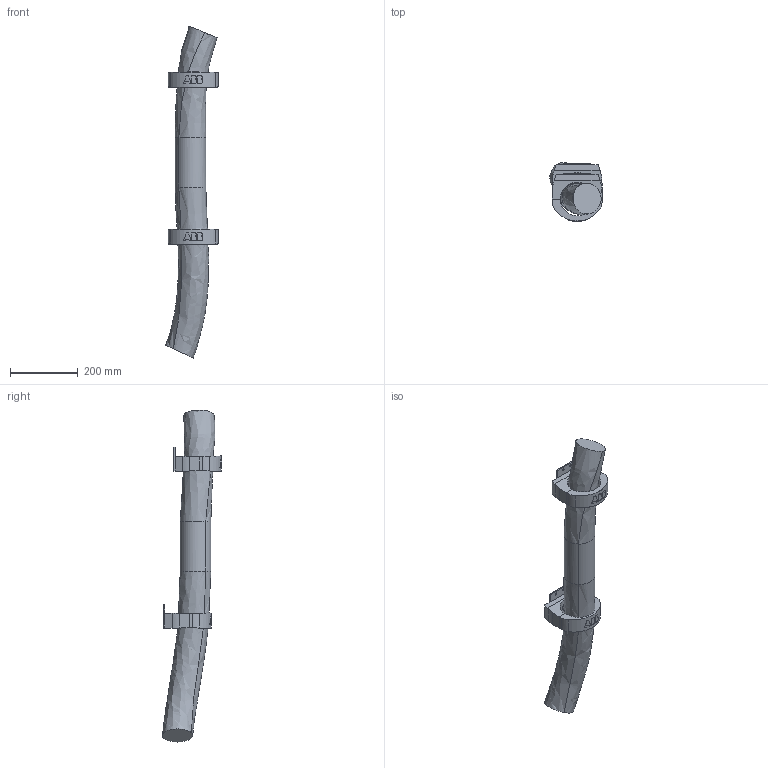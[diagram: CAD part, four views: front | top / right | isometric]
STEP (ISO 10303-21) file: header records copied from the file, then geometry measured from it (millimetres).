
FILE_DESCRIPTION (( 'STEP AP214' ), '1' );
FILE_NAME ('IRB6700-SW6_145-320_IRC5_rev00_LINK02_CABLE.STEP', '2021-07-08T09:22:05', ( '' ), ( '' ), 'SwSTEP 2.0', 'SolidWorks 2020', '' );
FILE_SCHEMA (( 'AUTOMOTIVE_DESIGN' ));
Length unit declared in the file: millimetre
Products named in the file (1): IRB6700-SW6_145-320_IRC5_rev00_LINK02_CABLE
Bounding box: 155.23 x 175.47 x 982.94 mm (x, y, z)
Volume: 6989732.9 mm3; surface area: 394088.8 mm2
Topology: 1 solids, 1 shells, 134 faces, 353 edges, 229 vertices
Faces by surface type: plane 81, cylinder 36, bspline 17
Entity records: 8718 total; most frequent: CARTESIAN_POINT 5500, ORIENTED_EDGE 706, DIRECTION 559, EDGE_CURVE 353, VERTEX_POINT 229, VECTOR 187, LINE 187, AXIS2_PLACEMENT_3D 186
